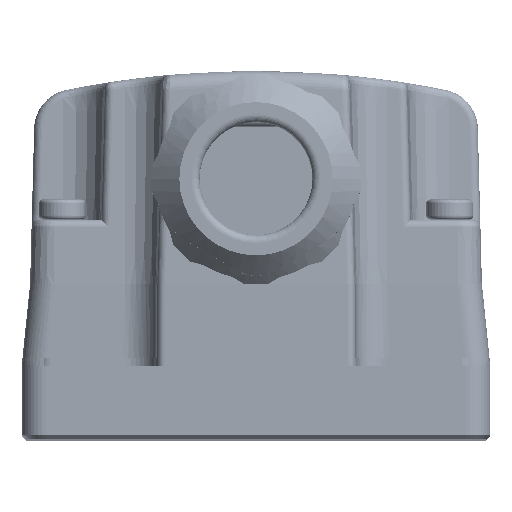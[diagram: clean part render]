
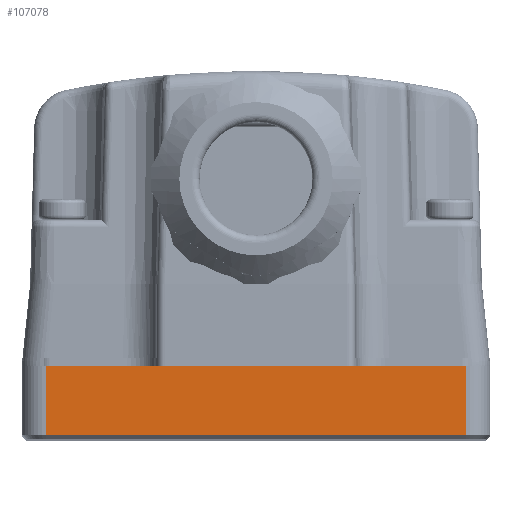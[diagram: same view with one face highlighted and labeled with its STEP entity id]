
A CAD part, top view. The second image highlights one B-rep face of the part: STEP entity #107078.
In plain terms, the highlighted planar face has unit normal (0, 0, 1).
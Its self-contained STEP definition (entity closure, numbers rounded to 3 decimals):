
#11633=DIRECTION('',(0.,1.,0.));
#11634=VECTOR('',#11633,8.5);
#11635=CARTESIAN_POINT('',(-26.,0.5,153.));
#11636=LINE('',#11635,#11634);
#11641=DIRECTION('',(-1.,0.,0.));
#11642=VECTOR('',#11641,52.);
#11643=CARTESIAN_POINT('',(26.,9.,153.));
#11644=LINE('',#11643,#11642);
#11645=DIRECTION('',(1.,0.,0.));
#11646=VECTOR('',#11645,52.);
#11647=CARTESIAN_POINT('',(-26.,0.5,153.));
#11648=LINE('',#11647,#11646);
#11653=DIRECTION('',(0.,-1.,0.));
#11654=VECTOR('',#11653,8.5);
#11655=CARTESIAN_POINT('',(26.,9.,153.));
#11656=LINE('',#11655,#11654);
#75930=CARTESIAN_POINT('',(-26.,9.,153.));
#75932=VERTEX_POINT('',#75930);
#76296=CARTESIAN_POINT('',(26.,0.5,153.));
#76298=VERTEX_POINT('',#76296);
#76814=CARTESIAN_POINT('',(26.,9.,153.));
#76816=VERTEX_POINT('',#76814);
#77144=CARTESIAN_POINT('',(-26.,0.5,153.));
#77146=VERTEX_POINT('',#77144);
#107065=CARTESIAN_POINT('',(-26.,0.5,153.));
#107066=DIRECTION('',(0.,0.,1.));
#107067=DIRECTION('',(1.,0.,0.));
#107068=AXIS2_PLACEMENT_3D('',#107065,#107066,#107067);
#107069=PLANE('',#107068);
#107070=ORIENTED_EDGE('',*,*,#106943,.F.);
#107072=ORIENTED_EDGE('',*,*,#107071,.T.);
#107074=ORIENTED_EDGE('',*,*,#107073,.F.);
#107075=ORIENTED_EDGE('',*,*,#107057,.T.);
#107076=EDGE_LOOP('',(#107070,#107072,#107074,#107075));
#107077=FACE_OUTER_BOUND('',#107076,.F.);
#107078=ADVANCED_FACE('',(#107077),#107069,.T.);
#106943=EDGE_CURVE('',#76816,#75932,#11644,.T.);
#107057=EDGE_CURVE('',#77146,#75932,#11636,.T.);
#107071=EDGE_CURVE('',#76816,#76298,#11656,.T.);
#107073=EDGE_CURVE('',#77146,#76298,#11648,.T.);
